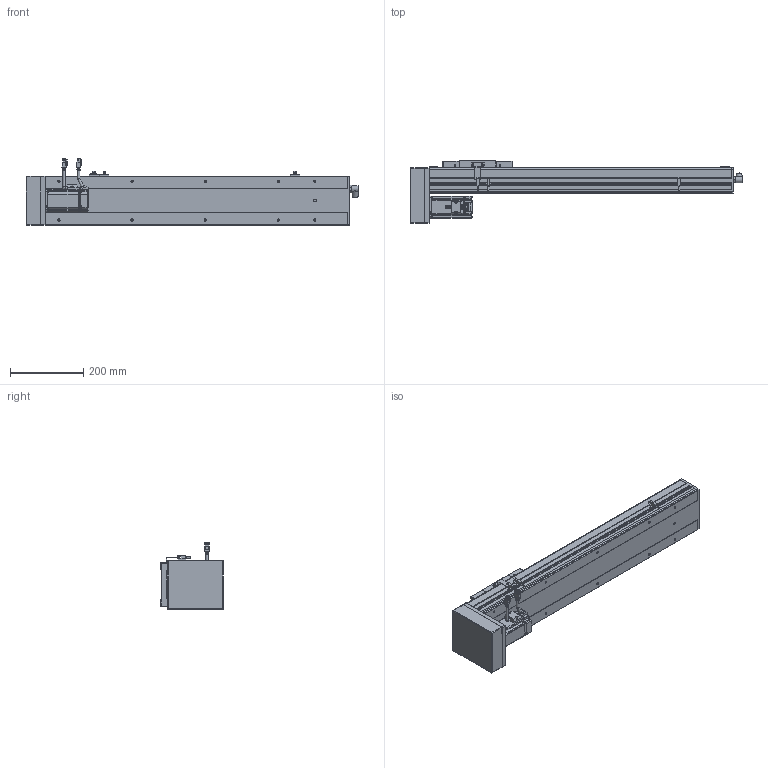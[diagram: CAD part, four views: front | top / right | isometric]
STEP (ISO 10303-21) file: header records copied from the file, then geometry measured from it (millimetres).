
FILE_DESCRIPTION(/* description */ ('STEP AP214'),/* implementation_level */ '2;1');
FILE_NAME(/* name */ 'PSC140-L05-S550-BM-P40-C1-N(0-P)',/* time_stamp */ '2022-06-13T03:20:57+02:00',/* author */ ('License CC BY-ND 4.0'),/* organization */ ('CADENAS'),/* preprocessor_version */ 'ST-DEVELOPER v18.102',/* originating_system */ 'PARTsolutions',/* authorisation */ ' ');
FILE_SCHEMA (('AUTOMOTIVE_DESIGN {1 0 10303 214 3 1 1}'));
Length unit declared in the file: millimetre
Products named in the file (11): PSC140-L05-S550-BM-P40-C1-N(0-P); P40-s2; P40-c2; P40-s1; P40-c1; P40-p1; PSC140-BM-body2; PSC140-sensor; PSC140-BM-SLIDER; PSC140-S550-BM-P40-C1-P_BODY1; PSC140-L05-S550-BM-P40-C1-N(0-P)_dummy
Assembly tree (12 placements, depth 2):
  PSC140-L05-S550-BM-P40-C1-N(0-P)
    P40-s2
    P40-c2
    P40-s1
    P40-c1
    P40-p1
    PSC140-BM-body2
    PSC140-sensor  x3
    PSC140-BM-SLIDER
    PSC140-S550-BM-P40-C1-P_BODY1
    PSC140-L05-S550-BM-P40-C1-N(0-P)_dummy
Bounding box: 908 x 171.5 x 182.48 mm (x, y, z)
Volume: 9719493.6 mm3; surface area: 593466 mm2
Topology: 11 solids, 11 shells, 1232 faces, 3185 edges, 2108 vertices
Faces by surface type: plane 860, cylinder 315, cone 38, torus 19
Full cylindrical faces by diameter (mm): 1 x8, 2.6 x10, 2.8 x3, 3.3 x8, 4.5 x12, 4.6 x3, 4.917 x14, 5 x4, 5.5 x8, 6 x11, 7 x10, 9 x2, 10 x1, 11 x1, 12 x1, 13.74 x1, 14 x1, 16.4 x2, 16.5 x1, 36 x1, 50 x2
Entity records: 34152 total; most frequent: CARTESIAN_POINT 5966, DIRECTION 5741, ORIENTED_EDGE 5550, EDGE_CURVE 2775, LINE 2105, VECTOR 2105, VERTEX_POINT 1928, AXIS2_PLACEMENT_3D 1818
